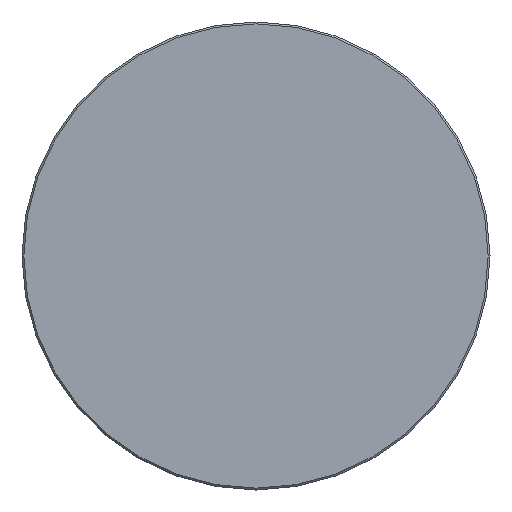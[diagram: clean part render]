
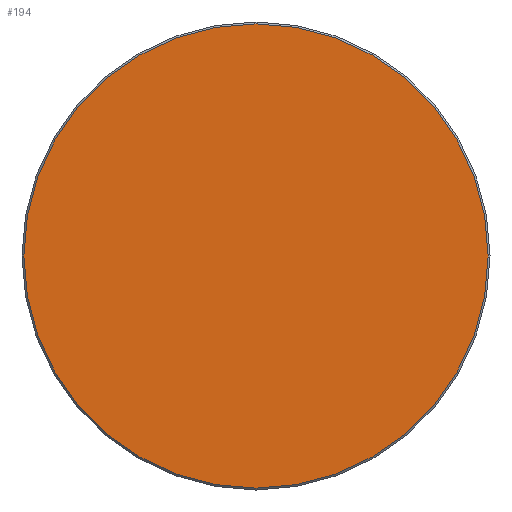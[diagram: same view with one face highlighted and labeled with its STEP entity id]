
A CAD part, left-side view. The second image highlights one B-rep face of the part: STEP entity #194.
In plain terms, the highlighted planar face has unit normal (-1, 0, 0).
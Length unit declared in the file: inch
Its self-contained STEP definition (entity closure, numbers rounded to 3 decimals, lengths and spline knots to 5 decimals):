
#29 = VERTEX_POINT ( 'NONE', #180 ) ;
#42 = CARTESIAN_POINT ( 'NONE',  ( 0., 0., 0. ) ) ;
#49 = CARTESIAN_POINT ( 'NONE',  ( 0., 0., 0. ) ) ;
#57 = AXIS2_PLACEMENT_3D ( 'NONE', #49, #262, #311 ) ;
#61 = VERTEX_POINT ( 'NONE', #98 ) ;
#72 = DIRECTION ( 'NONE',  ( -1., 0., 0. ) ) ;
#86 = FACE_OUTER_BOUND ( 'NONE', #204, .T. ) ;
#98 = CARTESIAN_POINT ( 'NONE',  ( 0., -0.496, 0. ) ) ;
#172 = AXIS2_PLACEMENT_3D ( 'NONE', #199, #315, #264 ) ;
#180 = CARTESIAN_POINT ( 'NONE',  ( 0., 0.496, 0. ) ) ;
#182 = ORIENTED_EDGE ( 'NONE', *, *, #277, .T. ) ;
#194 = ADVANCED_FACE ( 'NONE', ( #86 ), #248, .T. ) ;
#199 = CARTESIAN_POINT ( 'NONE',  ( 0., 0., 0. ) ) ;
#204 = EDGE_LOOP ( 'NONE', ( #326, #182 ) ) ;
#238 = CIRCLE ( 'NONE', #172, 0.496 ) ;
#248 = PLANE ( 'NONE',  #355 ) ;
#250 = DIRECTION ( 'NONE',  ( 0., -1., 0. ) ) ;
#262 = DIRECTION ( 'NONE',  ( -1., 0., 0. ) ) ;
#264 = DIRECTION ( 'NONE',  ( 0., -1., 0. ) ) ;
#268 = CIRCLE ( 'NONE', #57, 0.496 ) ;
#277 = EDGE_CURVE ( 'NONE', #61, #29, #238, .T. ) ;
#311 = DIRECTION ( 'NONE',  ( 0., -1., 0. ) ) ;
#315 = DIRECTION ( 'NONE',  ( -1., 0., 0. ) ) ;
#323 = EDGE_CURVE ( 'NONE', #29, #61, #268, .T. ) ;
#326 = ORIENTED_EDGE ( 'NONE', *, *, #323, .T. ) ;
#355 = AXIS2_PLACEMENT_3D ( 'NONE', #42, #72, #250 ) ;
